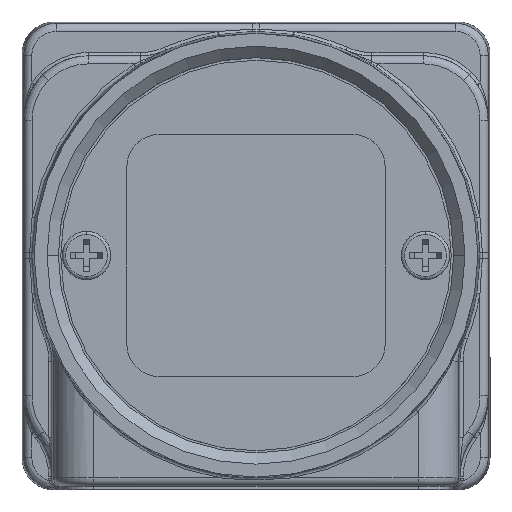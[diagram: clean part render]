
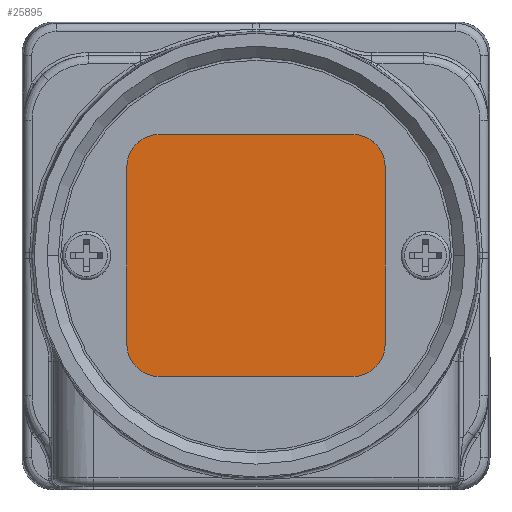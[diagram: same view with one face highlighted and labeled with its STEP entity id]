
A CAD part, top view. The second image highlights one B-rep face of the part: STEP entity #25895.
In plain terms, the highlighted planar face has unit normal (0, 0, 1).
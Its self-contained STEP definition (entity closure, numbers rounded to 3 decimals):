
#988 = EDGE_CURVE ( 'NONE', #45993, #41008, #47417, .T. ) ;
#2180 = CIRCLE ( 'NONE', #36242, 2. ) ;
#2664 = DIRECTION ( 'NONE',  ( 0., 0., -1. ) ) ;
#3949 = VERTEX_POINT ( 'NONE', #60870 ) ;
#4575 = DIRECTION ( 'NONE',  ( 1., 0., 0. ) ) ;
#6213 = CARTESIAN_POINT ( 'NONE',  ( 6., -5.5, -11.5 ) ) ;
#7338 = EDGE_CURVE ( 'NONE', #71815, #42508, #74770, .T. ) ;
#14477 = DIRECTION ( 'NONE',  ( 1., 0., 0. ) ) ;
#14889 = ORIENTED_EDGE ( 'NONE', *, *, #15496, .T. ) ;
#15113 = CARTESIAN_POINT ( 'NONE',  ( 6., 7.5, -11.5 ) ) ;
#15307 = EDGE_CURVE ( 'NONE', #19790, #45993, #73600, .T. ) ;
#15356 = CARTESIAN_POINT ( 'NONE',  ( -8., 5.5, -11.5 ) ) ;
#15496 = EDGE_CURVE ( 'NONE', #19790, #41401, #78487, .T. ) ;
#15607 = PLANE ( 'NONE',  #58268 ) ;
#16899 = ORIENTED_EDGE ( 'NONE', *, *, #42468, .F. ) ;
#17762 = LINE ( 'NONE', #31661, #18706 ) ;
#18347 = CARTESIAN_POINT ( 'NONE',  ( -6., -7.5, -11.5 ) ) ;
#18475 = VECTOR ( 'NONE', #79359, 1000. ) ;
#18706 = VECTOR ( 'NONE', #68488, 1000. ) ;
#19790 = VERTEX_POINT ( 'NONE', #18347 ) ;
#20409 = VECTOR ( 'NONE', #26235, 1000. ) ;
#22640 = AXIS2_PLACEMENT_3D ( 'NONE', #6213, #24318, #37323 ) ;
#24318 = DIRECTION ( 'NONE',  ( 0., 0., -1. ) ) ;
#25201 = CARTESIAN_POINT ( 'NONE',  ( -6., 5.5, -11.5 ) ) ;
#25302 = ORIENTED_EDGE ( 'NONE', *, *, #57488, .F. ) ;
#25488 = DIRECTION ( 'NONE',  ( 1., 0., 0. ) ) ;
#25895 = ADVANCED_FACE ( 'NONE', ( #28260 ), #15607, .T. ) ;
#26235 = DIRECTION ( 'NONE',  ( 1., 0., 0. ) ) ;
#27705 = DIRECTION ( 'NONE',  ( 0., 0., 1. ) ) ;
#28260 = FACE_OUTER_BOUND ( 'NONE', #54259, .T. ) ;
#29583 = CARTESIAN_POINT ( 'NONE',  ( -6., -5.5, -11.5 ) ) ;
#29675 = ORIENTED_EDGE ( 'NONE', *, *, #988, .F. ) ;
#30772 = CARTESIAN_POINT ( 'NONE',  ( 6., -7.5, -11.5 ) ) ;
#31661 = CARTESIAN_POINT ( 'NONE',  ( 8., -5.5, -11.5 ) ) ;
#34118 = ORIENTED_EDGE ( 'NONE', *, *, #35099, .T. ) ;
#34553 = ORIENTED_EDGE ( 'NONE', *, *, #15307, .F. ) ;
#35099 = EDGE_CURVE ( 'NONE', #71815, #64851, #74581, .T. ) ;
#36242 = AXIS2_PLACEMENT_3D ( 'NONE', #25201, #50113, #25488 ) ;
#37323 = DIRECTION ( 'NONE',  ( 1., 0., 0. ) ) ;
#38137 = CARTESIAN_POINT ( 'NONE',  ( -6., -7.5, -11.5 ) ) ;
#39518 = VECTOR ( 'NONE', #77781, 1000. ) ;
#39694 = ORIENTED_EDGE ( 'NONE', *, *, #7338, .F. ) ;
#41008 = VERTEX_POINT ( 'NONE', #63826 ) ;
#41401 = VERTEX_POINT ( 'NONE', #30772 ) ;
#41769 = DIRECTION ( 'NONE',  ( 0., 0., -1. ) ) ;
#42468 = EDGE_CURVE ( 'NONE', #3949, #41401, #71400, .T. ) ;
#42508 = VERTEX_POINT ( 'NONE', #51110 ) ;
#45993 = VERTEX_POINT ( 'NONE', #62799 ) ;
#46436 = CARTESIAN_POINT ( 'NONE',  ( 6., 5.5, -11.5 ) ) ;
#46485 = EDGE_CURVE ( 'NONE', #42508, #3949, #17762, .T. ) ;
#47417 = LINE ( 'NONE', #15356, #39518 ) ;
#48091 = CARTESIAN_POINT ( 'NONE',  ( -6., 7.5, -11.5 ) ) ;
#50113 = DIRECTION ( 'NONE',  ( 0., 0., -1. ) ) ;
#51110 = CARTESIAN_POINT ( 'NONE',  ( 8., 5.5, -11.5 ) ) ;
#53898 = CARTESIAN_POINT ( 'NONE',  ( -8.65, -8.65, -11.5 ) ) ;
#54259 = EDGE_LOOP ( 'NONE', ( #39694, #34118, #25302, #29675, #34553, #14889, #16899, #60519 ) ) ;
#57488 = EDGE_CURVE ( 'NONE', #41008, #64851, #2180, .T. ) ;
#57673 = AXIS2_PLACEMENT_3D ( 'NONE', #29583, #41769, #4575 ) ;
#58268 = AXIS2_PLACEMENT_3D ( 'NONE', #53898, #27705, #60180 ) ;
#60180 = DIRECTION ( 'NONE',  ( 1., 0., 0. ) ) ;
#60519 = ORIENTED_EDGE ( 'NONE', *, *, #46485, .F. ) ;
#60870 = CARTESIAN_POINT ( 'NONE',  ( 8., -5.5, -11.5 ) ) ;
#62799 = CARTESIAN_POINT ( 'NONE',  ( -8., -5.5, -11.5 ) ) ;
#63826 = CARTESIAN_POINT ( 'NONE',  ( -8., 5.5, -11.5 ) ) ;
#64851 = VERTEX_POINT ( 'NONE', #81106 ) ;
#68488 = DIRECTION ( 'NONE',  ( 0., -1., 0. ) ) ;
#71400 = CIRCLE ( 'NONE', #22640, 2. ) ;
#71815 = VERTEX_POINT ( 'NONE', #15113 ) ;
#73435 = AXIS2_PLACEMENT_3D ( 'NONE', #46436, #2664, #14477 ) ;
#73600 = CIRCLE ( 'NONE', #57673, 2. ) ;
#74581 = LINE ( 'NONE', #48091, #18475 ) ;
#74770 = CIRCLE ( 'NONE', #73435, 2. ) ;
#77781 = DIRECTION ( 'NONE',  ( 0., 1., 0. ) ) ;
#78487 = LINE ( 'NONE', #38137, #20409 ) ;
#79359 = DIRECTION ( 'NONE',  ( -1., 0., 0. ) ) ;
#81106 = CARTESIAN_POINT ( 'NONE',  ( -6., 7.5, -11.5 ) ) ;
